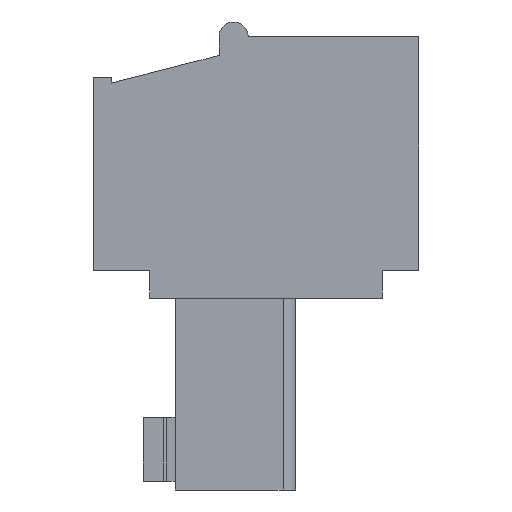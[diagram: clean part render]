
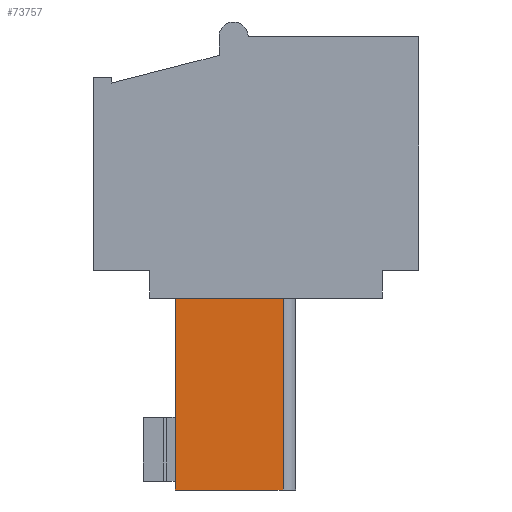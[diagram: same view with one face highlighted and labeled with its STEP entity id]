
A CAD part, left-side view. The second image highlights one B-rep face of the part: STEP entity #73757.
In plain terms, the highlighted planar face has unit normal (-1, 0, 0).
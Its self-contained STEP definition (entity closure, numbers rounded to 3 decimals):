
#329 = PLANE('',#330);
#330 = AXIS2_PLACEMENT_3D('',#331,#332,#333);
#331 = CARTESIAN_POINT('',(0.,-6.37,-9.));
#332 = DIRECTION('',(0.,0.,-1.));
#333 = DIRECTION('',(0.,1.,0.));
#50705 = VERTEX_POINT('',#50706);
#50706 = CARTESIAN_POINT('',(-53.25,-1.7,-9.));
#50721 = CYLINDRICAL_SURFACE('',#50722,0.44);
#50722 = AXIS2_PLACEMENT_3D('',#50723,#50724,#50725);
#50723 = CARTESIAN_POINT('',(-52.81,-1.7,-9.));
#50724 = DIRECTION('',(0.,0.,-1.));
#50725 = DIRECTION('',(1.,0.,0.));
#50733 = EDGE_CURVE('',#50705,#50734,#50736,.T.);
#50734 = VERTEX_POINT('',#50735);
#50735 = CARTESIAN_POINT('',(-53.25,2.01,-9.));
#50736 = SURFACE_CURVE('',#50737,(#50741,#50748),.PCURVE_S1.);
#50737 = LINE('',#50738,#50739);
#50738 = CARTESIAN_POINT('',(-53.25,-1.7,-9.));
#50739 = VECTOR('',#50740,1.);
#50740 = DIRECTION('',(0.,1.,0.));
#50741 = PCURVE('',#329,#50742);
#50742 = DEFINITIONAL_REPRESENTATION('',(#50743),#50747);
#50743 = LINE('',#50744,#50745);
#50744 = CARTESIAN_POINT('',(4.67,-53.25));
#50745 = VECTOR('',#50746,1.);
#50746 = DIRECTION('',(1.,0.));
#50747 = ( GEOMETRIC_REPRESENTATION_CONTEXT(2) 
PARAMETRIC_REPRESENTATION_CONTEXT() REPRESENTATION_CONTEXT('2D SPACE',''
  ) );
#50748 = PCURVE('',#50749,#50754);
#50749 = PLANE('',#50750);
#50750 = AXIS2_PLACEMENT_3D('',#50751,#50752,#50753);
#50751 = CARTESIAN_POINT('',(-53.25,-1.7,-9.));
#50752 = DIRECTION('',(-1.,0.,0.));
#50753 = DIRECTION('',(0.,1.,0.));
#50754 = DEFINITIONAL_REPRESENTATION('',(#50755),#50759);
#50755 = LINE('',#50756,#50757);
#50756 = CARTESIAN_POINT('',(0.,0.));
#50757 = VECTOR('',#50758,1.);
#50758 = DIRECTION('',(1.,0.));
#50759 = ( GEOMETRIC_REPRESENTATION_CONTEXT(2) 
PARAMETRIC_REPRESENTATION_CONTEXT() REPRESENTATION_CONTEXT('2D SPACE',''
  ) );
#50775 = PLANE('',#50776);
#50776 = AXIS2_PLACEMENT_3D('',#50777,#50778,#50779);
#50777 = CARTESIAN_POINT('',(-53.25,2.01,-9.));
#50778 = DIRECTION('',(0.,1.,0.));
#50779 = DIRECTION('',(1.,0.,0.));
#73154 = PLANE('',#73155);
#73155 = AXIS2_PLACEMENT_3D('',#73156,#73157,#73158);
#73156 = CARTESIAN_POINT('',(-51.83,0.,-15.6));
#73157 = DIRECTION('',(0.,0.,-1.));
#73158 = DIRECTION('',(1.,0.,0.));
#73222 = VERTEX_POINT('',#73223);
#73223 = CARTESIAN_POINT('',(-53.25,-1.7,-15.6));
#73274 = VERTEX_POINT('',#73275);
#73275 = CARTESIAN_POINT('',(-53.25,2.01,-15.6));
#73296 = EDGE_CURVE('',#73274,#73222,#73297,.T.);
#73297 = SURFACE_CURVE('',#73298,(#73302,#73309),.PCURVE_S1.);
#73298 = LINE('',#73299,#73300);
#73299 = CARTESIAN_POINT('',(-53.25,2.01,-15.6));
#73300 = VECTOR('',#73301,1.);
#73301 = DIRECTION('',(0.,-1.,0.));
#73302 = PCURVE('',#73154,#73303);
#73303 = DEFINITIONAL_REPRESENTATION('',(#73304),#73308);
#73304 = LINE('',#73305,#73306);
#73305 = CARTESIAN_POINT('',(-1.42,-2.01));
#73306 = VECTOR('',#73307,1.);
#73307 = DIRECTION('',(0.,1.));
#73308 = ( GEOMETRIC_REPRESENTATION_CONTEXT(2) 
PARAMETRIC_REPRESENTATION_CONTEXT() REPRESENTATION_CONTEXT('2D SPACE',''
  ) );
#73309 = PCURVE('',#50749,#73310);
#73310 = DEFINITIONAL_REPRESENTATION('',(#73311),#73315);
#73311 = LINE('',#73312,#73313);
#73312 = CARTESIAN_POINT('',(3.71,6.6));
#73313 = VECTOR('',#73314,1.);
#73314 = DIRECTION('',(-1.,0.));
#73315 = ( GEOMETRIC_REPRESENTATION_CONTEXT(2) 
PARAMETRIC_REPRESENTATION_CONTEXT() REPRESENTATION_CONTEXT('2D SPACE',''
  ) );
#73737 = EDGE_CURVE('',#50705,#73222,#73738,.T.);
#73738 = SURFACE_CURVE('',#73739,(#73743,#73750),.PCURVE_S1.);
#73739 = LINE('',#73740,#73741);
#73740 = CARTESIAN_POINT('',(-53.25,-1.7,-9.));
#73741 = VECTOR('',#73742,1.);
#73742 = DIRECTION('',(0.,0.,-1.));
#73743 = PCURVE('',#50721,#73744);
#73744 = DEFINITIONAL_REPRESENTATION('',(#73745),#73749);
#73745 = LINE('',#73746,#73747);
#73746 = CARTESIAN_POINT('',(3.142,0.));
#73747 = VECTOR('',#73748,1.);
#73748 = DIRECTION('',(0.,1.));
#73749 = ( GEOMETRIC_REPRESENTATION_CONTEXT(2) 
PARAMETRIC_REPRESENTATION_CONTEXT() REPRESENTATION_CONTEXT('2D SPACE',''
  ) );
#73750 = PCURVE('',#50749,#73751);
#73751 = DEFINITIONAL_REPRESENTATION('',(#73752),#73756);
#73752 = LINE('',#73753,#73754);
#73753 = CARTESIAN_POINT('',(0.,0.));
#73754 = VECTOR('',#73755,1.);
#73755 = DIRECTION('',(0.,1.));
#73756 = ( GEOMETRIC_REPRESENTATION_CONTEXT(2) 
PARAMETRIC_REPRESENTATION_CONTEXT() REPRESENTATION_CONTEXT('2D SPACE',''
  ) );
#73757 = ADVANCED_FACE('',(#73758),#50749,.T.);
#73758 = FACE_BOUND('',#73759,.F.);
#73759 = EDGE_LOOP('',(#73760,#73761,#73762,#73783));
#73760 = ORIENTED_EDGE('',*,*,#73737,.T.);
#73761 = ORIENTED_EDGE('',*,*,#73296,.F.);
#73762 = ORIENTED_EDGE('',*,*,#73763,.T.);
#73763 = EDGE_CURVE('',#73274,#50734,#73764,.T.);
#73764 = SURFACE_CURVE('',#73765,(#73769,#73776),.PCURVE_S1.);
#73765 = LINE('',#73766,#73767);
#73766 = CARTESIAN_POINT('',(-53.25,2.01,-15.6));
#73767 = VECTOR('',#73768,1.);
#73768 = DIRECTION('',(0.,0.,1.));
#73769 = PCURVE('',#50749,#73770);
#73770 = DEFINITIONAL_REPRESENTATION('',(#73771),#73775);
#73771 = LINE('',#73772,#73773);
#73772 = CARTESIAN_POINT('',(3.71,6.6));
#73773 = VECTOR('',#73774,1.);
#73774 = DIRECTION('',(0.,-1.));
#73775 = ( GEOMETRIC_REPRESENTATION_CONTEXT(2) 
PARAMETRIC_REPRESENTATION_CONTEXT() REPRESENTATION_CONTEXT('2D SPACE',''
  ) );
#73776 = PCURVE('',#50775,#73777);
#73777 = DEFINITIONAL_REPRESENTATION('',(#73778),#73782);
#73778 = LINE('',#73779,#73780);
#73779 = CARTESIAN_POINT('',(0.,6.6));
#73780 = VECTOR('',#73781,1.);
#73781 = DIRECTION('',(0.,-1.));
#73782 = ( GEOMETRIC_REPRESENTATION_CONTEXT(2) 
PARAMETRIC_REPRESENTATION_CONTEXT() REPRESENTATION_CONTEXT('2D SPACE',''
  ) );
#73783 = ORIENTED_EDGE('',*,*,#50733,.F.);
